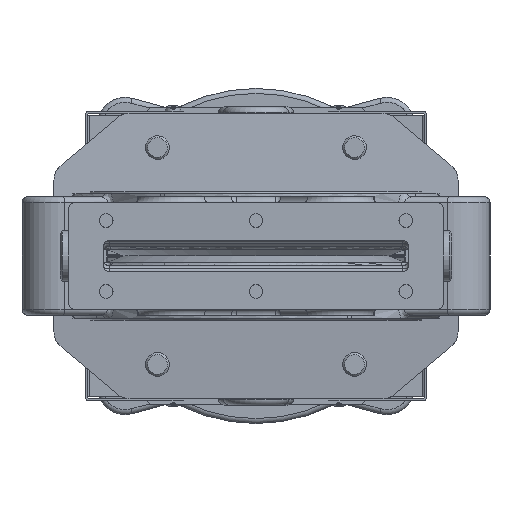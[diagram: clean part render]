
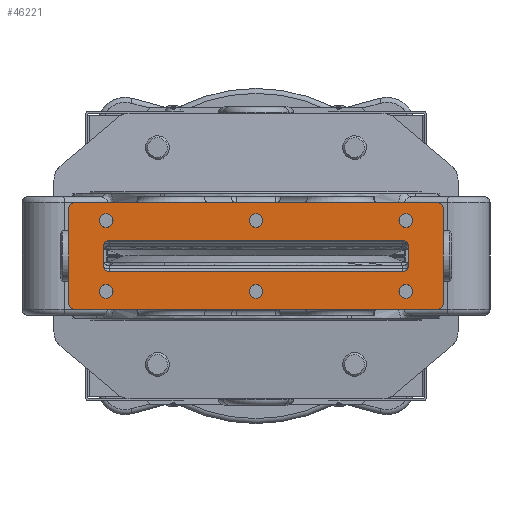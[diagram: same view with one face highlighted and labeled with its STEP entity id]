
A CAD part, front view. The second image highlights one B-rep face of the part: STEP entity #46221.
In plain terms, the highlighted planar face has unit normal (0, -1, 0).
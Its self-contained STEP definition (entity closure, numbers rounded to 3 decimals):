
#2860=FACE_BOUND('',#9261,.T.);
#2861=FACE_BOUND('',#9262,.T.);
#2862=FACE_BOUND('',#9263,.T.);
#2863=FACE_BOUND('',#9264,.T.);
#2864=FACE_BOUND('',#9265,.T.);
#2865=FACE_BOUND('',#9266,.T.);
#2866=FACE_BOUND('',#9267,.T.);
#3736=PLANE('',#51891);
#6222=FACE_OUTER_BOUND('',#9260,.T.);
#9260=EDGE_LOOP('',(#41113,#41114,#41115,#41116,#41117,#41118,#41119,#41120));
#9261=EDGE_LOOP('',(#41121));
#9262=EDGE_LOOP('',(#41122));
#9263=EDGE_LOOP('',(#41123));
#9264=EDGE_LOOP('',(#41124));
#9265=EDGE_LOOP('',(#41125));
#9266=EDGE_LOOP('',(#41126));
#9267=EDGE_LOOP('',(#41127,#41128,#41129,#41130,#41131,#41132,#41133,#41134));
#12422=CIRCLE('',#51666,3.);
#12424=CIRCLE('',#51669,3.);
#12426=CIRCLE('',#51672,3.);
#12428=CIRCLE('',#51675,3.);
#12497=CIRCLE('',#51783,3.);
#12539=CIRCLE('',#51892,3.5);
#12540=CIRCLE('',#51893,3.5);
#12541=CIRCLE('',#51894,3.5);
#12542=CIRCLE('',#51895,3.5);
#12543=CIRCLE('',#51896,3.5);
#12544=CIRCLE('',#51897,3.5);
#12545=CIRCLE('',#51898,3.);
#12546=CIRCLE('',#51899,3.);
#12547=CIRCLE('',#51900,3.);
#14741=LINE('',#95274,#17076);
#14744=LINE('',#95285,#17079);
#14960=LINE('',#114952,#17295);
#14962=LINE('',#114955,#17297);
#14964=LINE('',#114961,#17299);
#15002=LINE('',#115059,#17337);
#15003=LINE('',#115074,#17338);
#15004=LINE('',#115078,#17339);
#17076=VECTOR('',#63800,1.);
#17079=VECTOR('',#63809,1.);
#17295=VECTOR('',#65061,1.);
#17297=VECTOR('',#65065,1.);
#17299=VECTOR('',#65071,1.);
#17337=VECTOR('',#65185,1.);
#17338=VECTOR('',#65200,1.);
#17339=VECTOR('',#65203,1.);
#21147=VERTEX_POINT('',#95271);
#21148=VERTEX_POINT('',#95273);
#21152=VERTEX_POINT('',#95282);
#21153=VERTEX_POINT('',#95284);
#21445=VERTEX_POINT('',#110544);
#21447=VERTEX_POINT('',#110548);
#21449=VERTEX_POINT('',#110553);
#21451=VERTEX_POINT('',#110557);
#21453=VERTEX_POINT('',#110562);
#21455=VERTEX_POINT('',#110566);
#21457=VERTEX_POINT('',#110571);
#21459=VERTEX_POINT('',#110575);
#21557=VERTEX_POINT('',#114370);
#21658=VERTEX_POINT('',#115060);
#21659=VERTEX_POINT('',#115062);
#21660=VERTEX_POINT('',#115064);
#21661=VERTEX_POINT('',#115066);
#21662=VERTEX_POINT('',#115068);
#21663=VERTEX_POINT('',#115070);
#21664=VERTEX_POINT('',#115072);
#21665=VERTEX_POINT('',#115075);
#21666=VERTEX_POINT('',#115077);
#27567=EDGE_CURVE('',#21147,#21148,#14741,.T.);
#27572=EDGE_CURVE('',#21152,#21153,#14744,.T.);
#27997=EDGE_CURVE('',#21445,#21447,#12422,.F.);
#28001=EDGE_CURVE('',#21449,#21451,#12424,.F.);
#28005=EDGE_CURVE('',#21453,#21455,#12426,.F.);
#28009=EDGE_CURVE('',#21457,#21459,#12428,.F.);
#28156=EDGE_CURVE('',#21557,#21148,#12497,.T.);
#28270=EDGE_CURVE('',#21447,#21449,#14960,.T.);
#28272=EDGE_CURVE('',#21455,#21457,#14962,.T.);
#28275=EDGE_CURVE('',#21459,#21445,#14964,.T.);
#28328=EDGE_CURVE('',#21451,#21453,#15002,.T.);
#28329=EDGE_CURVE('',#21658,#21658,#12539,.T.);
#28330=EDGE_CURVE('',#21659,#21659,#12540,.T.);
#28331=EDGE_CURVE('',#21660,#21660,#12541,.T.);
#28332=EDGE_CURVE('',#21661,#21661,#12542,.T.);
#28333=EDGE_CURVE('',#21662,#21662,#12543,.T.);
#28334=EDGE_CURVE('',#21663,#21663,#12544,.T.);
#28335=EDGE_CURVE('',#21152,#21664,#12545,.T.);
#28336=EDGE_CURVE('',#21664,#21557,#15003,.T.);
#28337=EDGE_CURVE('',#21147,#21665,#12546,.T.);
#28338=EDGE_CURVE('',#21665,#21666,#15004,.T.);
#28339=EDGE_CURVE('',#21666,#21153,#12547,.T.);
#41113=ORIENTED_EDGE('',*,*,#28275,.T.);
#41114=ORIENTED_EDGE('',*,*,#27997,.T.);
#41115=ORIENTED_EDGE('',*,*,#28270,.T.);
#41116=ORIENTED_EDGE('',*,*,#28001,.T.);
#41117=ORIENTED_EDGE('',*,*,#28328,.T.);
#41118=ORIENTED_EDGE('',*,*,#28005,.T.);
#41119=ORIENTED_EDGE('',*,*,#28272,.T.);
#41120=ORIENTED_EDGE('',*,*,#28009,.T.);
#41121=ORIENTED_EDGE('',*,*,#28329,.T.);
#41122=ORIENTED_EDGE('',*,*,#28330,.T.);
#41123=ORIENTED_EDGE('',*,*,#28331,.T.);
#41124=ORIENTED_EDGE('',*,*,#28332,.T.);
#41125=ORIENTED_EDGE('',*,*,#28333,.T.);
#41126=ORIENTED_EDGE('',*,*,#28334,.T.);
#41127=ORIENTED_EDGE('',*,*,#27572,.F.);
#41128=ORIENTED_EDGE('',*,*,#28335,.T.);
#41129=ORIENTED_EDGE('',*,*,#28336,.T.);
#41130=ORIENTED_EDGE('',*,*,#28156,.T.);
#41131=ORIENTED_EDGE('',*,*,#27567,.F.);
#41132=ORIENTED_EDGE('',*,*,#28337,.T.);
#41133=ORIENTED_EDGE('',*,*,#28338,.T.);
#41134=ORIENTED_EDGE('',*,*,#28339,.T.);
#46221=ADVANCED_FACE('',(#6222,#2860,#2861,#2862,#2863,#2864,#2865,#2866),
#3736,.F.);
#51666=AXIS2_PLACEMENT_3D('',#110550,#64571,#64572);
#51669=AXIS2_PLACEMENT_3D('',#110559,#64579,#64580);
#51672=AXIS2_PLACEMENT_3D('',#110568,#64587,#64588);
#51675=AXIS2_PLACEMENT_3D('',#110577,#64595,#64596);
#51783=AXIS2_PLACEMENT_3D('',#114384,#64858,#64859);
#51891=AXIS2_PLACEMENT_3D('',#115058,#65183,#65184);
#51892=AXIS2_PLACEMENT_3D('',#115061,#65186,#65187);
#51893=AXIS2_PLACEMENT_3D('',#115063,#65188,#65189);
#51894=AXIS2_PLACEMENT_3D('',#115065,#65190,#65191);
#51895=AXIS2_PLACEMENT_3D('',#115067,#65192,#65193);
#51896=AXIS2_PLACEMENT_3D('',#115069,#65194,#65195);
#51897=AXIS2_PLACEMENT_3D('',#115071,#65196,#65197);
#51898=AXIS2_PLACEMENT_3D('',#115073,#65198,#65199);
#51899=AXIS2_PLACEMENT_3D('',#115076,#65201,#65202);
#51900=AXIS2_PLACEMENT_3D('',#115079,#65204,#65205);
#63800=DIRECTION('',(0.,0.,-1.));
#63809=DIRECTION('',(0.,0.,1.));
#64571=DIRECTION('center_axis',(0.,1.,0.));
#64572=DIRECTION('ref_axis',(0.,0.,-1.));
#64579=DIRECTION('center_axis',(0.,1.,0.));
#64580=DIRECTION('ref_axis',(0.,0.,-1.));
#64587=DIRECTION('center_axis',(0.,1.,0.));
#64588=DIRECTION('ref_axis',(0.,0.,-1.));
#64595=DIRECTION('center_axis',(0.,1.,0.));
#64596=DIRECTION('ref_axis',(0.,0.,-1.));
#64858=DIRECTION('center_axis',(0.,1.,0.));
#64859=DIRECTION('ref_axis',(0.,0.,-1.));
#65061=DIRECTION('',(-1.,0.,0.));
#65065=DIRECTION('',(1.,0.,0.));
#65071=DIRECTION('',(0.,0.,1.));
#65183=DIRECTION('center_axis',(0.,1.,0.));
#65184=DIRECTION('ref_axis',(0.,0.,1.));
#65185=DIRECTION('',(0.,0.,-1.));
#65186=DIRECTION('center_axis',(0.,1.,0.));
#65187=DIRECTION('ref_axis',(0.,0.,1.));
#65188=DIRECTION('center_axis',(0.,1.,0.));
#65189=DIRECTION('ref_axis',(0.,0.,1.));
#65190=DIRECTION('center_axis',(0.,1.,0.));
#65191=DIRECTION('ref_axis',(0.,0.,1.));
#65192=DIRECTION('center_axis',(0.,1.,0.));
#65193=DIRECTION('ref_axis',(0.,0.,1.));
#65194=DIRECTION('center_axis',(0.,1.,0.));
#65195=DIRECTION('ref_axis',(0.,0.,1.));
#65196=DIRECTION('center_axis',(0.,1.,0.));
#65197=DIRECTION('ref_axis',(0.,0.,1.));
#65198=DIRECTION('center_axis',(0.,1.,0.));
#65199=DIRECTION('ref_axis',(0.,0.,-1.));
#65200=DIRECTION('',(-1.,0.,0.));
#65201=DIRECTION('center_axis',(0.,1.,0.));
#65202=DIRECTION('ref_axis',(0.,0.,-1.));
#65203=DIRECTION('',(1.,0.,0.));
#65204=DIRECTION('center_axis',(0.,1.,0.));
#65205=DIRECTION('ref_axis',(0.,0.,-1.));
#95271=CARTESIAN_POINT('',(-77.5,-123.5,5.));
#95273=CARTESIAN_POINT('',(-77.5,-123.5,-5.));
#95274=CARTESIAN_POINT('',(-77.5,-123.5,5.));
#95282=CARTESIAN_POINT('',(77.5,-123.5,-5.));
#95284=CARTESIAN_POINT('',(77.5,-123.5,5.));
#95285=CARTESIAN_POINT('',(77.5,-123.5,-5.));
#110544=CARTESIAN_POINT('',(95.,-123.5,24.));
#110548=CARTESIAN_POINT('',(92.,-123.5,27.));
#110550=CARTESIAN_POINT('Origin',(92.,-123.5,24.));
#110553=CARTESIAN_POINT('',(-92.,-123.5,27.));
#110557=CARTESIAN_POINT('',(-95.,-123.5,24.));
#110559=CARTESIAN_POINT('Origin',(-92.,-123.5,24.));
#110562=CARTESIAN_POINT('',(-95.,-123.5,-24.));
#110566=CARTESIAN_POINT('',(-92.,-123.5,-27.));
#110568=CARTESIAN_POINT('Origin',(-92.,-123.5,-24.));
#110571=CARTESIAN_POINT('',(92.,-123.5,-27.));
#110575=CARTESIAN_POINT('',(95.,-123.5,-24.));
#110577=CARTESIAN_POINT('Origin',(92.,-123.5,-24.));
#114370=CARTESIAN_POINT('',(-74.5,-123.5,-8.));
#114384=CARTESIAN_POINT('Origin',(-74.5,-123.5,-5.));
#114952=CARTESIAN_POINT('',(95.,-123.5,27.));
#114955=CARTESIAN_POINT('',(-95.,-123.5,-27.));
#114961=CARTESIAN_POINT('',(95.,-123.5,-27.));
#115058=CARTESIAN_POINT('Origin',(85.5,-123.5,-13.));
#115059=CARTESIAN_POINT('',(-95.,-123.5,27.));
#115060=CARTESIAN_POINT('',(-76.,-123.5,-14.5));
#115061=CARTESIAN_POINT('Origin',(-76.,-123.5,-18.));
#115062=CARTESIAN_POINT('',(-76.,-123.5,21.5));
#115063=CARTESIAN_POINT('Origin',(-76.,-123.5,18.));
#115064=CARTESIAN_POINT('',(76.,-123.5,-14.5));
#115065=CARTESIAN_POINT('Origin',(76.,-123.5,-18.));
#115066=CARTESIAN_POINT('',(76.,-123.5,21.5));
#115067=CARTESIAN_POINT('Origin',(76.,-123.5,18.));
#115068=CARTESIAN_POINT('',(0.,-123.5,21.5));
#115069=CARTESIAN_POINT('Origin',(0.,-123.5,
18.));
#115070=CARTESIAN_POINT('',(0.,-123.5,-14.5));
#115071=CARTESIAN_POINT('Origin',(0.,-123.5,
-18.));
#115072=CARTESIAN_POINT('',(74.5,-123.5,-8.));
#115073=CARTESIAN_POINT('Origin',(74.5,-123.5,-5.));
#115074=CARTESIAN_POINT('',(77.5,-123.5,-8.));
#115075=CARTESIAN_POINT('',(-74.5,-123.5,8.));
#115076=CARTESIAN_POINT('Origin',(-74.5,-123.5,5.));
#115077=CARTESIAN_POINT('',(74.5,-123.5,8.));
#115078=CARTESIAN_POINT('',(-77.5,-123.5,8.));
#115079=CARTESIAN_POINT('Origin',(74.5,-123.5,5.));
